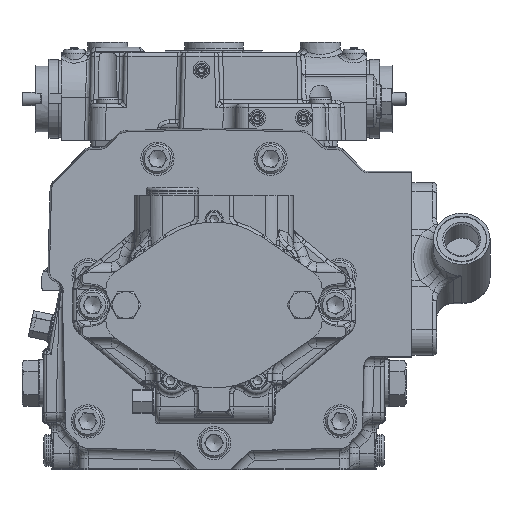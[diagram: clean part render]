
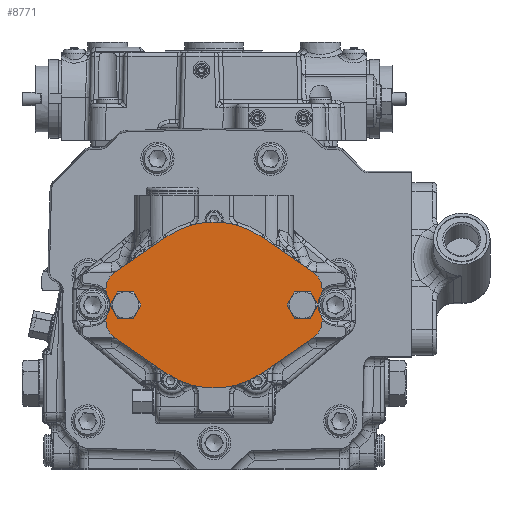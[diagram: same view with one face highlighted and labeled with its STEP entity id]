
A CAD part, front view. The second image highlights one B-rep face of the part: STEP entity #8771.
In plain terms, the highlighted planar face has unit normal (0, -1, 0).
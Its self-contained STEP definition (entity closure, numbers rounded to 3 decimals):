
#5245=PLANE('',#62191);
#6814=FACE_BOUND('',#17104,.T.);
#6815=FACE_BOUND('',#17105,.T.);
#6816=FACE_BOUND('',#17106,.T.);
#8771=ADVANCED_FACE('',(#6814,#6815,#6816),#5245,.F.);
#17104=EDGE_LOOP('',(#27133));
#17105=EDGE_LOOP('',(#27134));
#17106=EDGE_LOOP('',(#27135,#27136,#27137,#27138,#27139,#27140,#27141,#27142,
#27143,#27144,#27145,#27146,#27147,#27148,#27149,#27150,#27151,#27152,#27153,
#27154));
#21156=CIRCLE('',#62157,50.);
#21158=CIRCLE('',#62163,50.);
#21172=CIRCLE('',#62179,7.015);
#21173=CIRCLE('',#62180,7.015);
#21174=CIRCLE('',#62181,4.);
#21175=CIRCLE('',#62182,12.);
#21176=CIRCLE('',#62183,4.);
#21177=CIRCLE('',#62184,12.);
#21178=CIRCLE('',#62185,12.);
#21179=CIRCLE('',#62186,4.);
#21180=CIRCLE('',#62187,12.);
#21181=CIRCLE('',#62188,4.);
#21182=CIRCLE('',#62189,12.);
#21183=CIRCLE('',#62190,12.);
#27133=ORIENTED_EDGE('',*,*,#48171,.T.);
#27134=ORIENTED_EDGE('',*,*,#48172,.T.);
#27135=ORIENTED_EDGE('',*,*,#48125,.F.);
#27136=ORIENTED_EDGE('',*,*,#48173,.T.);
#27137=ORIENTED_EDGE('',*,*,#48174,.T.);
#27138=ORIENTED_EDGE('',*,*,#48175,.T.);
#27139=ORIENTED_EDGE('',*,*,#48149,.F.);
#27140=ORIENTED_EDGE('',*,*,#48176,.T.);
#27141=ORIENTED_EDGE('',*,*,#48146,.T.);
#27142=ORIENTED_EDGE('',*,*,#48143,.F.);
#27143=ORIENTED_EDGE('',*,*,#48141,.F.);
#27144=ORIENTED_EDGE('',*,*,#48177,.T.);
#27145=ORIENTED_EDGE('',*,*,#48129,.F.);
#27146=ORIENTED_EDGE('',*,*,#48178,.T.);
#27147=ORIENTED_EDGE('',*,*,#48179,.T.);
#27148=ORIENTED_EDGE('',*,*,#48180,.T.);
#27149=ORIENTED_EDGE('',*,*,#48135,.F.);
#27150=ORIENTED_EDGE('',*,*,#48181,.T.);
#27151=ORIENTED_EDGE('',*,*,#48131,.T.);
#27152=ORIENTED_EDGE('',*,*,#48157,.T.);
#27153=ORIENTED_EDGE('',*,*,#48155,.F.);
#27154=ORIENTED_EDGE('',*,*,#48182,.T.);
#41920=VERTEX_POINT('',#95042);
#41921=VERTEX_POINT('',#95044);
#41924=VERTEX_POINT('',#95051);
#41925=VERTEX_POINT('',#95053);
#41926=VERTEX_POINT('',#95057);
#41927=VERTEX_POINT('',#95058);
#41930=VERTEX_POINT('',#95066);
#41931=VERTEX_POINT('',#95067);
#41936=VERTEX_POINT('',#95078);
#41937=VERTEX_POINT('',#95080);
#41938=VERTEX_POINT('',#95084);
#41940=VERTEX_POINT('',#95090);
#41942=VERTEX_POINT('',#95096);
#41943=VERTEX_POINT('',#95097);
#41948=VERTEX_POINT('',#95108);
#41949=VERTEX_POINT('',#95110);
#41956=VERTEX_POINT('',#95136);
#41957=VERTEX_POINT('',#95138);
#41958=VERTEX_POINT('',#95140);
#41959=VERTEX_POINT('',#95142);
#41960=VERTEX_POINT('',#95147);
#41961=VERTEX_POINT('',#95149);
#48125=EDGE_CURVE('',#41920,#41921,#55617,.T.);
#48129=EDGE_CURVE('',#41924,#41925,#55621,.T.);
#48131=EDGE_CURVE('',#41926,#41927,#55623,.T.);
#48135=EDGE_CURVE('',#41930,#41931,#55627,.T.);
#48141=EDGE_CURVE('',#41936,#41937,#55633,.T.);
#48143=EDGE_CURVE('',#41937,#41938,#21156,.T.);
#48146=EDGE_CURVE('',#41940,#41938,#55636,.T.);
#48149=EDGE_CURVE('',#41942,#41943,#55639,.T.);
#48155=EDGE_CURVE('',#41948,#41949,#55645,.T.);
#48157=EDGE_CURVE('',#41927,#41949,#21158,.T.);
#48171=EDGE_CURVE('',#41956,#41956,#21172,.T.);
#48172=EDGE_CURVE('',#41957,#41957,#21173,.T.);
#48173=EDGE_CURVE('',#41920,#41958,#21174,.T.);
#48174=EDGE_CURVE('',#41958,#41959,#21175,.T.);
#48175=EDGE_CURVE('',#41959,#41943,#21176,.T.);
#48176=EDGE_CURVE('',#41942,#41940,#21177,.T.);
#48177=EDGE_CURVE('',#41936,#41925,#21178,.T.);
#48178=EDGE_CURVE('',#41924,#41960,#21179,.T.);
#48179=EDGE_CURVE('',#41960,#41961,#21180,.T.);
#48180=EDGE_CURVE('',#41961,#41931,#21181,.T.);
#48181=EDGE_CURVE('',#41930,#41926,#21182,.T.);
#48182=EDGE_CURVE('',#41948,#41921,#21183,.T.);
#55617=LINE('',#95043,#58524);
#55621=LINE('',#95052,#58528);
#55623=LINE('',#95056,#58530);
#55627=LINE('',#95065,#58534);
#55633=LINE('',#95079,#58540);
#55636=LINE('',#95089,#58543);
#55639=LINE('',#95095,#58546);
#55645=LINE('',#95109,#58552);
#58524=VECTOR('',#70003,1.);
#58528=VECTOR('',#70009,1.);
#58530=VECTOR('',#70013,1.);
#58534=VECTOR('',#70019,1.);
#58540=VECTOR('',#70027,1.);
#58543=VECTOR('',#70038,1.);
#58546=VECTOR('',#70043,1.);
#58552=VECTOR('',#70051,1.);
#62157=AXIS2_PLACEMENT_3D('',#95083,#70031,#70032);
#62163=AXIS2_PLACEMENT_3D('',#95113,#70055,#70056);
#62179=AXIS2_PLACEMENT_3D('',#95135,#70087,#70088);
#62180=AXIS2_PLACEMENT_3D('',#95137,#70089,#70090);
#62181=AXIS2_PLACEMENT_3D('',#95139,#70091,#70092);
#62182=AXIS2_PLACEMENT_3D('',#95141,#70093,#70094);
#62183=AXIS2_PLACEMENT_3D('',#95143,#70095,#70096);
#62184=AXIS2_PLACEMENT_3D('',#95144,#70097,#70098);
#62185=AXIS2_PLACEMENT_3D('',#95145,#70099,#70100);
#62186=AXIS2_PLACEMENT_3D('',#95146,#70101,#70102);
#62187=AXIS2_PLACEMENT_3D('',#95148,#70103,#70104);
#62188=AXIS2_PLACEMENT_3D('',#95150,#70105,#70106);
#62189=AXIS2_PLACEMENT_3D('',#95151,#70107,#70108);
#62190=AXIS2_PLACEMENT_3D('',#95152,#70109,#70110);
#62191=AXIS2_PLACEMENT_3D('',#95153,#70111,#70112);
#70003=DIRECTION('',(0.,0.,-1.));
#70009=DIRECTION('',(0.,0.,1.));
#70013=DIRECTION('',(0.824,0.,-0.566));
#70019=DIRECTION('',(0.,0.,1.));
#70027=DIRECTION('',(0.824,0.,0.566));
#70031=DIRECTION('',(0.,1.,0.));
#70032=DIRECTION('',(-1.,0.,0.));
#70038=DIRECTION('',(-0.824,0.,0.566));
#70043=DIRECTION('',(0.,0.,-1.));
#70051=DIRECTION('',(-0.824,0.,-0.566));
#70055=DIRECTION('',(0.,-1.,0.));
#70056=DIRECTION('',(-1.,0.,0.));
#70087=DIRECTION('',(0.,1.,0.));
#70088=DIRECTION('',(0.,0.,1.));
#70089=DIRECTION('',(0.,1.,0.));
#70090=DIRECTION('',(0.866,0.,0.5));
#70091=DIRECTION('',(0.,-1.,0.));
#70092=DIRECTION('',(1.,0.,0.));
#70093=DIRECTION('',(0.,1.,0.));
#70094=DIRECTION('',(1.,0.,0.));
#70095=DIRECTION('',(0.,-1.,0.));
#70096=DIRECTION('',(1.,0.,0.));
#70097=DIRECTION('',(0.,-1.,0.));
#70098=DIRECTION('',(1.,0.,0.));
#70099=DIRECTION('',(0.,-1.,0.));
#70100=DIRECTION('',(1.,0.,0.));
#70101=DIRECTION('',(0.,-1.,0.));
#70102=DIRECTION('',(1.,0.,0.));
#70103=DIRECTION('',(0.,1.,0.));
#70104=DIRECTION('',(1.,0.,0.));
#70105=DIRECTION('',(0.,-1.,0.));
#70106=DIRECTION('',(1.,0.,0.));
#70107=DIRECTION('',(0.,-1.,0.));
#70108=DIRECTION('',(1.,0.,0.));
#70109=DIRECTION('',(0.,-1.,0.));
#70110=DIRECTION('',(1.,0.,0.));
#70111=DIRECTION('',(0.,1.,0.));
#70112=DIRECTION('',(1.,0.,0.));
#95042=CARTESIAN_POINT('',(65.,-122.6,-8.588));
#95043=CARTESIAN_POINT('',(65.,-122.6,0.));
#95044=CARTESIAN_POINT('',(65.,-122.6,-9.686));
#95051=CARTESIAN_POINT('',(-65.,-122.6,8.588));
#95052=CARTESIAN_POINT('',(-65.,-122.6,0.));
#95053=CARTESIAN_POINT('',(-65.,-122.6,9.686));
#95056=CARTESIAN_POINT('',(-65.,-122.6,-16.));
#95057=CARTESIAN_POINT('',(-59.796,-122.6,-19.576));
#95058=CARTESIAN_POINT('',(-28.318,-122.6,-41.208));
#95065=CARTESIAN_POINT('',(-65.,-122.6,0.));
#95066=CARTESIAN_POINT('',(-65.,-122.6,-9.686));
#95067=CARTESIAN_POINT('',(-65.,-122.6,-8.588));
#95078=CARTESIAN_POINT('',(-59.796,-122.6,19.576));
#95079=CARTESIAN_POINT('',(-65.,-122.6,16.));
#95080=CARTESIAN_POINT('',(-28.318,-122.6,41.208));
#95083=CARTESIAN_POINT('',(0.,-122.6,0.));
#95084=CARTESIAN_POINT('',(28.318,-122.6,41.208));
#95089=CARTESIAN_POINT('',(65.,-122.6,16.));
#95090=CARTESIAN_POINT('',(59.796,-122.6,19.576));
#95095=CARTESIAN_POINT('',(65.,-122.6,0.));
#95096=CARTESIAN_POINT('',(65.,-122.6,9.686));
#95097=CARTESIAN_POINT('',(65.,-122.6,8.588));
#95108=CARTESIAN_POINT('',(59.796,-122.6,-19.576));
#95109=CARTESIAN_POINT('',(65.,-122.6,-16.));
#95110=CARTESIAN_POINT('',(28.318,-122.6,-41.208));
#95113=CARTESIAN_POINT('',(0.,-122.6,0.));
#95135=CARTESIAN_POINT('',(-53.2,-122.6,0.));
#95136=CARTESIAN_POINT('',(-53.2,-122.6,7.015));
#95137=CARTESIAN_POINT('',(53.2,-122.6,0.));
#95138=CARTESIAN_POINT('',(59.275,-122.6,3.508));
#95139=CARTESIAN_POINT('',(61.,-122.6,-8.588));
#95140=CARTESIAN_POINT('',(64.375,-122.6,-6.441));
#95141=CARTESIAN_POINT('',(74.5,-122.6,0.));
#95142=CARTESIAN_POINT('',(64.375,-122.6,6.441));
#95143=CARTESIAN_POINT('',(61.,-122.6,8.588));
#95144=CARTESIAN_POINT('',(53.,-122.6,9.686));
#95145=CARTESIAN_POINT('',(-53.,-122.6,9.686));
#95146=CARTESIAN_POINT('',(-61.,-122.6,8.588));
#95147=CARTESIAN_POINT('',(-64.375,-122.6,6.441));
#95148=CARTESIAN_POINT('',(-74.5,-122.6,0.));
#95149=CARTESIAN_POINT('',(-64.375,-122.6,-6.441));
#95150=CARTESIAN_POINT('',(-61.,-122.6,-8.588));
#95151=CARTESIAN_POINT('',(-53.,-122.6,-9.686));
#95152=CARTESIAN_POINT('',(53.,-122.6,-9.686));
#95153=CARTESIAN_POINT('',(0.,-122.6,0.));
